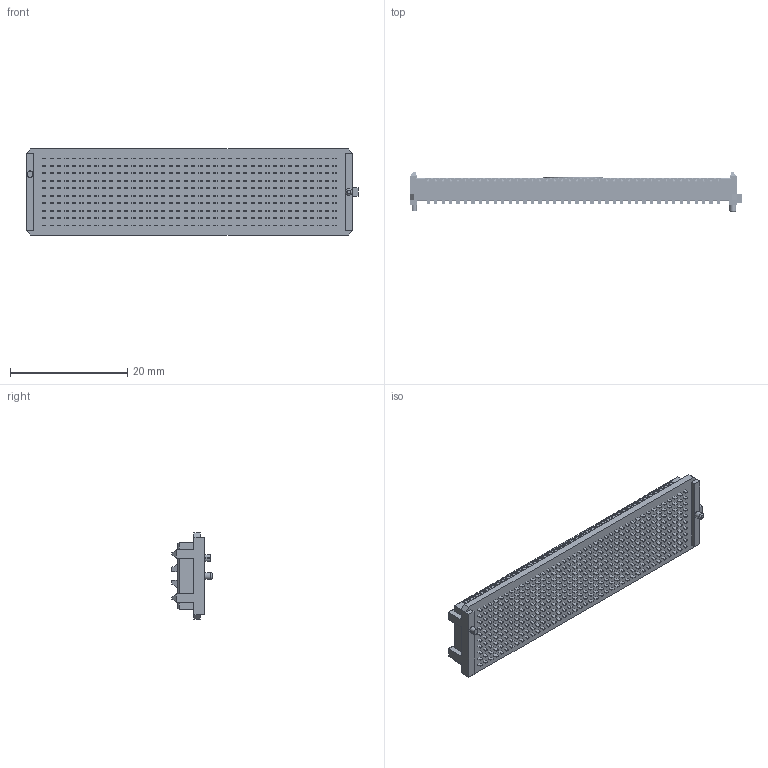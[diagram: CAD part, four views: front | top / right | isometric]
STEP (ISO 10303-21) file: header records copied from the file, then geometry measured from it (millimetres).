
FILE_DESCRIPTION( ( 'STEP AP214' ), '1' );
FILE_NAME( 'p:/temp/worker_56/temp/app_50_0201904231558476072758010e898ce_000000_00_00_000000/format_0/SEAM-40-02.0-S-10-2-A-K-TR.stp', '2019-04-23T13:59:13', ( '' ), ( '' ), ' ', 'PARTsolutions', ' ' );
FILE_SCHEMA( ( 'AUTOMOTIVE_DESIGN { 1 0 10303 214 1 1 1 1 }' ) );
Length unit declared in the file: inch
Products named in the file (5): SEAM-40-02.0-S-10-2-A-K-TR; _SEAM-40-02.0-L-10-1-A-K-TR_body; _SEAM-40-02.0-L-10-1-A-K-TR_conn; _SEAM_K_Pad_10; _SEAM_Triangle
Assembly tree (4 placements, depth 2):
  SEAM-40-02.0-S-10-2-A-K-TR
    _SEAM-40-02.0-L-10-1-A-K-TR_body
    _SEAM-40-02.0-L-10-1-A-K-TR_conn
    _SEAM_K_Pad_10
    _SEAM_Triangle
Bounding box: 56.67 x 6.88 x 14.68 mm (x, y, z)
Volume: 1876.5 mm3; surface area: 8498.5 mm2
Topology: 4 solids, 4 shells, 11736 faces, 32727 edges, 21806 vertices
Faces by surface type: plane 9731, cylinder 2004, torus 1
Full cylindrical faces by diameter (mm): 1.118 x1, 10.262 x1
Entity records: 478182 total; most frequent: CARTESIAN_POINT 83069, ORIENTED_EDGE 65446, DIRECTION 57814, EDGE_CURVE 32723, LINE 26314, VECTOR 26314, VERTEX_POINT 21805, AXIS2_PLACEMENT_3D 15750
